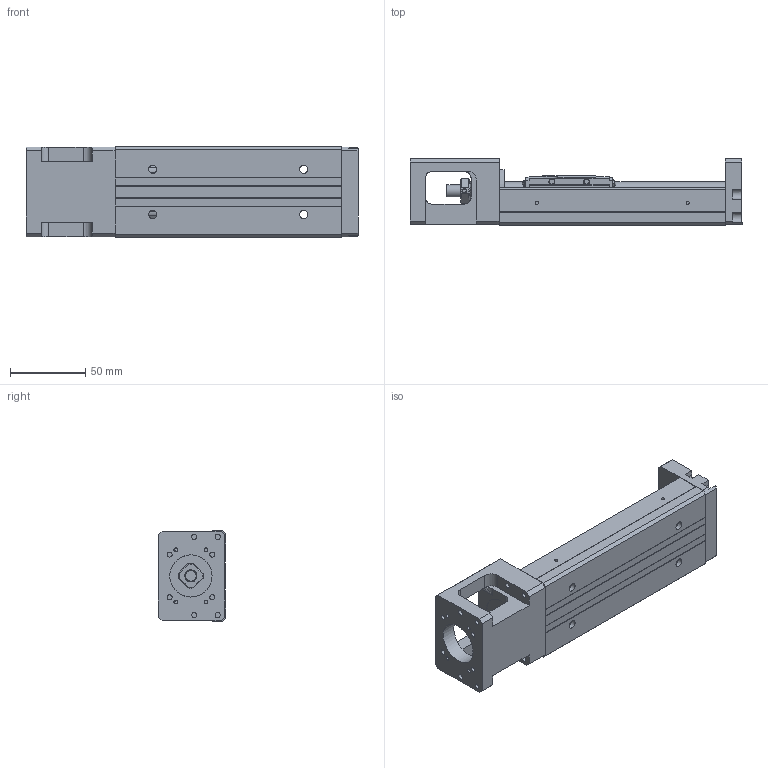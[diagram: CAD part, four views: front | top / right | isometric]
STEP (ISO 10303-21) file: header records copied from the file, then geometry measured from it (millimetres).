
FILE_DESCRIPTION(/* description */ (''),/* implementation_level */ '2;1');
FILE_NAME(/* name */ 'KP33S-150-D.stp',/* time_stamp */ '2020-06-04T17:41:45+08:00',/* author */ (''),/* organization */ (''),/* preprocessor_version */ 'ST-DEVELOPER v14',/* originating_system */ 'SIEMENS PLM Software NX 8.0',/* authorisation */ '');
FILE_SCHEMA (('AUTOMOTIVE_DESIGN { 1 0 10303 214 3 1 1 1 }'));
Length unit declared in the file: millimetre
Products named in the file (1): model1
Bounding box: 220 x 44.45 x 60 mm (x, y, z)
Volume: 295267.2 mm3; surface area: 84968 mm2
Topology: 5 solids, 10 shells, 581 faces, 1500 edges, 986 vertices
Faces by surface type: plane 345, cylinder 151, bspline 31, cone 22, extrusion 21, torus 9, revolution 2
Full cylindrical faces by diameter (mm): 1.6 x2, 1.65 x4, 2.15 x2, 2.42 x4, 2.45 x4, 2.5 x4, 3.2 x4, 3.3 x4, 3.4 x4, 3.5 x10, 3.969 x1, 4 x4, 4.001 x1, 4.135 x2, 5.5 x4, 6 x4, 7.6 x1, 8 x5, 9.5 x4, 10.72 x3, 11.8 x2, 12 x1, 12.8 x1, 13 x2, 14 x1, 17.38 x3, 21.5 x1, 22 x2, 28 x1
Entity records: 32314 total; most frequent: CARTESIAN_POINT 15778, DIRECTION 2660, ORIENTED_EDGE 2648, EDGE_CURVE 1324, VERTEX_POINT 927, AXIS2_PLACEMENT_3D 917, VECTOR 824, EDGE_LOOP 809
